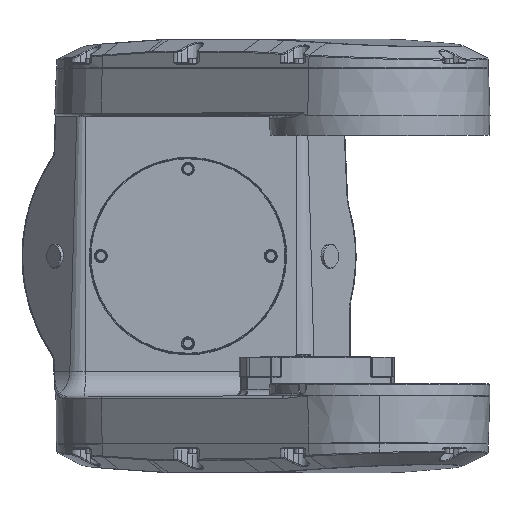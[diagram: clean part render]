
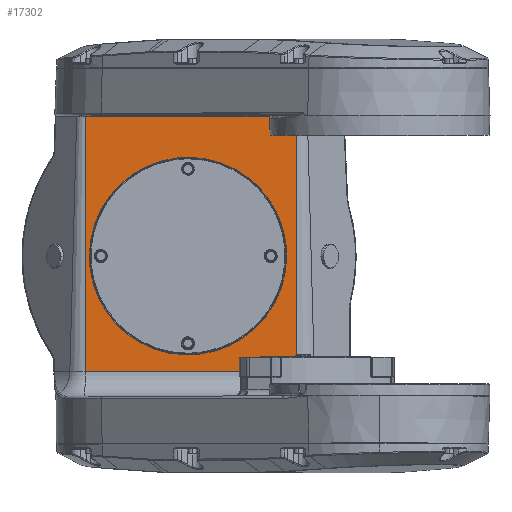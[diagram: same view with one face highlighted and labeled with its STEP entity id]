
A CAD part, top view. The second image highlights one B-rep face of the part: STEP entity #17302.
In plain terms, the highlighted planar face has unit normal (-0.052, 0.035, 0.998).
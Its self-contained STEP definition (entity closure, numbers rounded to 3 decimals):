
#760 = PLANE ( 'NONE',  #9340 ) ;
#1989 = CARTESIAN_POINT ( 'NONE',  ( -77.87, 0., 409.031 ) ) ;
#2034 = EDGE_CURVE ( 'NONE', #6649, #28171, #37681, .T. ) ;
#3220 = EDGE_LOOP ( 'NONE', ( #15964, #46358 ) ) ;
#3245 = CARTESIAN_POINT ( 'NONE',  ( -77.87, 0., 409.031 ) ) ;
#6278 = EDGE_CURVE ( 'NONE', #28171, #6649, #37994, .T. ) ;
#6649 = VERTEX_POINT ( 'NONE', #3245 ) ;
#7973 = CARTESIAN_POINT ( 'NONE',  ( -8.116, 109.5, 408.858 ) ) ;
#8893 = VECTOR ( 'NONE', #48279, 1000. ) ;
#8978 = ORIENTED_EDGE ( 'NONE', *, *, #38277, .F. ) ;
#9340 = AXIS2_PLACEMENT_3D ( 'NONE', #13024, #42419, #46753 ) ;
#11182 = ORIENTED_EDGE ( 'NONE', *, *, #47670, .F. ) ;
#13024 = CARTESIAN_POINT ( 'NONE',  ( -8.116, 109.5, 408.858 ) ) ;
#14448 = CARTESIAN_POINT ( 'NONE',  ( -77.587, 155., 403.626 ) ) ;
#15297 = ORIENTED_EDGE ( 'NONE', *, *, #21218, .T. ) ;
#15964 = ORIENTED_EDGE ( 'NONE', *, *, #6278, .T. ) ;
#16172 = LINE ( 'NONE', #7973, #8893 ) ;
#16694 = CARTESIAN_POINT ( 'NONE',  ( -81.024, -90.698, 412.038 ) ) ;
#17217 = CARTESIAN_POINT ( 'NONE',  ( 76.918, 0., 417.143 ) ) ;
#17302 = ADVANCED_FACE ( 'NONE', ( #17690, #22283 ), #760, .T. ) ;
#17690 = FACE_BOUND ( 'NONE', #3220, .T. ) ;
#18033 = CARTESIAN_POINT ( 'NONE',  ( -77.87, 0., 409.031 ) ) ;
#18726 = LINE ( 'NONE', #47013, #22375 ) ;
#19298 = EDGE_LOOP ( 'NONE', ( #11182, #15297, #8978, #44618 ) ) ;
#21218 = EDGE_CURVE ( 'NONE', #48433, #31639, #16172, .T. ) ;
#22283 = FACE_OUTER_BOUND ( 'NONE', #19298, .T. ) ;
#22375 = VECTOR ( 'NONE', #35318, 1000. ) ;
#24307 = DIRECTION ( 'NONE',  ( 0.002, 0.999, -0.035 ) ) ;
#26711 = CARTESIAN_POINT ( 'NONE',  ( 76.918, 0., 417.143 ) ) ;
#26761 = CARTESIAN_POINT ( 'NONE',  ( 84.912, 109.5, 413.733 ) ) ;
#27047 = CARTESIAN_POINT ( 'NONE',  ( -78.153, -155., 414.437 ) ) ;
#27220 = CARTESIAN_POINT ( 'NONE',  ( -81.024, -90.698, 412.038 ) ) ;
#28171 = VERTEX_POINT ( 'NONE', #17217 ) ;
#31047 = CARTESIAN_POINT ( 'NONE',  ( 77.201, 155., 411.738 ) ) ;
#31639 = VERTEX_POINT ( 'NONE', #39798 ) ;
#34440 = VERTEX_POINT ( 'NONE', #27220 ) ;
#34769 = VECTOR ( 'NONE', #24307, 1000. ) ;
#35318 = DIRECTION ( 'NONE',  ( 0.999, 0., 0.052 ) ) ;
#35959 = DIRECTION ( 'NONE',  ( -0.002, -0.999, 0.035 ) ) ;
#36338 = VERTEX_POINT ( 'NONE', #50038 ) ;
#36429 = VECTOR ( 'NONE', #35959, 1000. ) ;
#37681 =( BOUNDED_CURVE ( )  B_SPLINE_CURVE ( 3, ( #18033, #14448, #31047, #26711 ),
 .UNSPECIFIED., .F., .F. ) 
 B_SPLINE_CURVE_WITH_KNOTS ( ( 4, 4 ),
 ( 1.571, 4.712 ),
 .UNSPECIFIED. ) 
 CURVE ( )  GEOMETRIC_REPRESENTATION_ITEM ( )  RATIONAL_B_SPLINE_CURVE ( ( 1., 0.333, 0.333, 1. ) ) 
 REPRESENTATION_ITEM ( '' )  );
#37994 =( BOUNDED_CURVE ( )  B_SPLINE_CURVE ( 3, ( #52609, #39315, #27047, #1989 ),
 .UNSPECIFIED., .F., .F. ) 
 B_SPLINE_CURVE_WITH_KNOTS ( ( 4, 4 ),
 ( 4.712, 7.854 ),
 .UNSPECIFIED. ) 
 CURVE ( )  GEOMETRIC_REPRESENTATION_ITEM ( )  RATIONAL_B_SPLINE_CURVE ( ( 1., 0.333, 0.333, 1. ) ) 
 REPRESENTATION_ITEM ( '' )  );
#38277 = EDGE_CURVE ( 'NONE', #34440, #31639, #40904, .T. ) ;
#39315 = CARTESIAN_POINT ( 'NONE',  ( 76.634, -155., 422.549 ) ) ;
#39798 = CARTESIAN_POINT ( 'NONE',  ( -80.658, 109.5, 405.056 ) ) ;
#40033 = LINE ( 'NONE', #52529, #36429 ) ;
#40904 = LINE ( 'NONE', #16694, #34769 ) ;
#42419 = DIRECTION ( 'NONE',  ( -0.052, 0.035, 0.998 ) ) ;
#44618 = ORIENTED_EDGE ( 'NONE', *, *, #53180, .T. ) ;
#46358 = ORIENTED_EDGE ( 'NONE', *, *, #2034, .T. ) ;
#46753 = DIRECTION ( 'NONE',  ( 0.999, 0., 0.052 ) ) ;
#47013 = CARTESIAN_POINT ( 'NONE',  ( -8.482, -90.698, 415.839 ) ) ;
#47670 = EDGE_CURVE ( 'NONE', #48433, #36338, #40033, .T. ) ;
#48279 = DIRECTION ( 'NONE',  ( -0.999, 0., -0.052 ) ) ;
#48433 = VERTEX_POINT ( 'NONE', #26761 ) ;
#50038 = CARTESIAN_POINT ( 'NONE',  ( 84.546, -90.698, 420.715 ) ) ;
#52529 = CARTESIAN_POINT ( 'NONE',  ( 84.546, -90.698, 420.715 ) ) ;
#52609 = CARTESIAN_POINT ( 'NONE',  ( 76.918, 0., 417.143 ) ) ;
#53180 = EDGE_CURVE ( 'NONE', #34440, #36338, #18726, .T. ) ;
